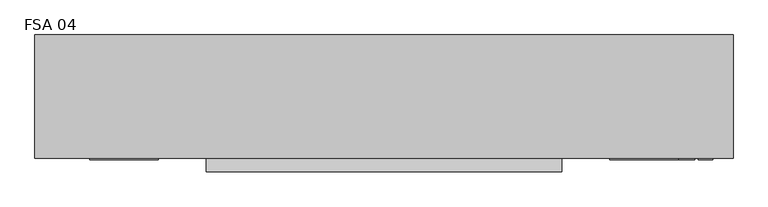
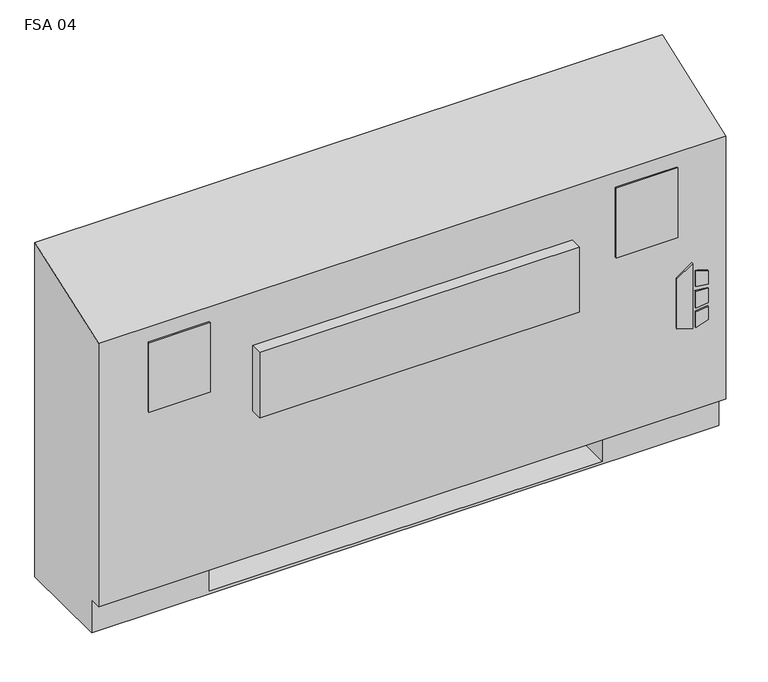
"""IFC4 building model written with IfcOpenShell, lengths in millimetres: proxy geometry, Vertical_Fan_Coil_Unit_-_FSA_-_IEC_-_4-Pipe_FS-FR_LH_2022 : FSA 04."""

from ifc_helpers import new_model, si_unit, point, frame, frame_2d, origin, place, context, project, spatial, polyline, circle_curve, trimmed, segment, composite_curve, outline, extrude, source, transform, mapped, element, save
from ifc_brep_helpers import plane_surface, revolved_surface, advanced_brep


def fsa_04_1a2f1526(model_context):
    return source(origin(), model_context, "Body", "SolidModel", [
        extrude(outline(polyline([(263.9480703, 696.9868862), (254.0, 729.1602728), (396.1709244, 729.1602728), (373.1489183, 696.9868862), (263.9480703, 696.9868862)])), frame((0.0, 12.7, 0.0), z_axis=(0.0, 1.0, 0.0), x_axis=(0.0, 0.0, 1.0)), (0.0, 0.0, 1.0), 3.175),
        extrude(outline(polyline([(342.9473557, 735.9186058), (339.7449632, 762.0), (368.9738042, 762.0), (377.0382193, 735.9186058), (342.9473557, 735.9186058)])), frame((0.0, 12.7, 0.0), z_axis=(0.0, 1.0, 0.0), x_axis=(0.0, 0.0, 1.0)), (0.0, 0.0, 1.0), 3.175),
        extrude(outline(polyline([(291.0838288, 762.0), (287.4183279, 735.9186058), (254.0, 735.9186058), (262.6342372, 762.0), (291.0838288, 762.0)])), frame((0.0, 12.7, 0.0), z_axis=(0.0, 1.0, 0.0), x_axis=(0.0, 0.0, 1.0)), (0.0, 0.0, 1.0), 3.175),
        extrude(outline(polyline([(330.3989903, 762.0), (332.6808166, 735.9186058), (296.7432681, 735.9186058), (299.4845331, 762.0), (330.3989903, 762.0)])), frame((0.0, 12.7, 0.0), z_axis=(0.0, 1.0, 0.0), x_axis=(0.0, 0.0, 1.0)), (0.0, 0.0, 1.0), 3.175),
        extrude(outline(polyline([(679.45, 223.266), (679.45, 81.534), (558.8, 81.534), (558.8, 223.266), (679.45, 223.266)])), frame((0.0, 0.0, 327.025), z_axis=(0.0, 0.0, 1.0), x_axis=(1.0, 0.0, 0.0)), (0.0, 0.0, 1.0), 260.35),
        extrude(outline(polyline([(-266.7, 12.7), (-393.7, 12.7), (-393.7, 15.875), (-266.7, 15.875), (-266.7, 12.7)])), frame((0.0, 0.0, 463.55), z_axis=(0.0, 0.0, 1.0), x_axis=(1.0, 0.0, 0.0)), (0.0, 0.0, 1.0), 152.4),
        extrude(outline(polyline([(698.5, 12.7), (571.5, 12.7), (571.5, 15.875), (698.5, 15.875), (698.5, 12.7)])), frame((0.0, 0.0, 463.55), z_axis=(0.0, 0.0, 1.0), x_axis=(1.0, 0.0, 0.0)), (0.0, 0.0, 1.0), 152.4),
        extrude(outline(composite_curve([segment(trimmed(circle_curve(frame_2d((-317.5, 130.175)), 9.525), [point((-327.025, 130.175))], [point((-307.975, 130.175))], False, "CARTESIAN"), True, "CONTINUOUS"), segment(trimmed(circle_curve(frame_2d((-317.5, 130.175)), 9.525), [point((-307.975, 130.175))], [point((-327.025, 130.175))], False, "CARTESIAN"), True, "CONTINUOUS")], self_intersect=False)), frame((0.0, 0.0, 101.6), z_axis=(0.0, 0.0, 1.0), x_axis=(1.0, 0.0, 0.0)), (0.0, 0.0, 1.0), 25.4),
        extrude(outline(polyline([(-419.1, 63.5), (-419.1, 196.85), (-254.0, 196.85), (-254.0, 63.5), (-419.1, 63.5)])), frame((0.0, 0.0, 127.0), z_axis=(0.0, 0.0, 1.0), x_axis=(1.0, 0.0, 0.0)), (0.0, 0.0, 1.0), 50.8),
        extrude(outline(polyline([(482.6, -9.525), (-177.8, -9.525), (-177.8, 15.875), (482.6, 15.875), (482.6, -9.525)])), frame((0.0, 0.0, 389.3009245), z_axis=(0.0, 0.0, 1.0), x_axis=(1.0, 0.0, 0.0)), (0.0, 0.0, 1.0), 142.875),
        extrude(outline(composite_curve([segment(trimmed(circle_curve(frame_2d((117.475, 472.44)), 7.9375), [point((117.475, 480.3775))], [point((117.475, 464.5025))], False, "CARTESIAN"), True, "CONTINUOUS"), segment(trimmed(circle_curve(frame_2d((117.475, 472.44)), 7.9375), [point((117.475, 464.5025))], [point((117.475, 480.3775))], False, "CARTESIAN"), True, "CONTINUOUS")], self_intersect=False)), frame((-304.8, 0.0, 0.0), z_axis=(1.0, 0.0, 0.0), x_axis=(0.0, 1.0, 0.0)), (0.0, 0.0, 1.0), 50.8),
        extrude(outline(composite_curve([segment(trimmed(circle_curve(frame_2d((164.0586, 445.897)), 7.9375), [point((164.0586, 453.8345))], [point((164.0586, 437.9595))], False, "CARTESIAN"), True, "CONTINUOUS"), segment(trimmed(circle_curve(frame_2d((164.0586, 445.897)), 7.9375), [point((164.0586, 437.9595))], [point((164.0586, 453.8345))], False, "CARTESIAN"), True, "CONTINUOUS")], self_intersect=False)), frame((-304.8, 0.0, 0.0), z_axis=(1.0, 0.0, 0.0), x_axis=(0.0, 1.0, 0.0)), (0.0, 0.0, 1.0), 50.8),
        extrude(outline(composite_curve([segment(trimmed(circle_curve(frame_2d((53.975, 416.56)), 7.9502), [point((53.975, 424.5102))], [point((53.975, 408.6098))], False, "CARTESIAN"), True, "CONTINUOUS"), segment(trimmed(circle_curve(frame_2d((53.975, 416.56)), 7.9502), [point((53.975, 408.6098))], [point((53.975, 424.5102))], False, "CARTESIAN"), True, "CONTINUOUS")], self_intersect=False)), frame((-304.8, 0.0, 0.0), z_axis=(1.0, 0.0, 0.0), x_axis=(0.0, 1.0, 0.0)), (0.0, 0.0, 1.0), 50.8),
        extrude(outline(composite_curve([segment(trimmed(circle_curve(frame_2d((130.175, 554.99)), 7.9502), [point((130.175, 562.9402))], [point((130.175, 547.0398))], False, "CARTESIAN"), True, "CONTINUOUS"), segment(trimmed(circle_curve(frame_2d((130.175, 554.99)), 7.9502), [point((130.175, 547.0398))], [point((130.175, 562.9402))], False, "CARTESIAN"), True, "CONTINUOUS")], self_intersect=False)), frame((-304.8, 0.0, 0.0), z_axis=(1.0, 0.0, 0.0), x_axis=(0.0, 1.0, 0.0)), (0.0, 0.0, 1.0), 50.8),
        advanced_brep(
        [(-495.3, 244.475, 0.0), (800.1, 244.475, 0.0), (800.1, 41.275, 0.0), (-495.3, 41.275, 0.0), (-495.3, 244.475, 730.25), (800.1, 244.475, 730.25), (558.8, 244.475, 73.025), (787.4, 244.475, 73.025), (787.4, 244.475, 654.05), (558.8, 244.475, 654.05), (558.8, 244.475, 414.8650565), (587.375, 244.475, 414.8650565), (587.375, 244.475, 385.2349435), (558.8, 244.475, 385.2349435), (558.8, 244.475, 287.3375), (587.375, 244.475, 287.3375), (587.375, 244.475, 258.7625), (558.8, 244.475, 258.7625), (558.8, 244.475, 141.2875), (587.375, 244.475, 141.2875), (587.375, 244.475, 112.7125), (558.8, 244.475, 112.7125), (-254.0, 244.475, 654.05), (-482.6, 244.475, 654.05), (-482.6, 244.475, 73.025), (-254.0, 244.475, 73.025), (-254.0, 244.475, 112.7125), (-282.575, 244.475, 112.7125), (-282.575, 244.475, 141.2875), (-254.0, 244.475, 141.2875), (-254.0, 244.475, 258.7625), (-282.575, 244.475, 258.7625), (-282.575, 244.475, 287.3375), (-254.0, 244.475, 287.3375), (-254.0, 244.475, 385.2349435), (-282.575, 244.475, 385.2349435), (-282.575, 244.475, 414.8650565), (-254.0, 244.475, 414.8650565), (577.0626, 244.475, 127.0), (565.9374, 244.475, 127.0), (577.0626, 244.475, 400.05), (565.9374, 244.475, 400.05), (577.0626, 244.475, 273.05), (565.9374, 244.475, 273.05), (-261.1374, 244.475, 127.0), (-272.2626, 244.475, 127.0), (-261.1374, 244.475, 273.05), (-272.2626, 244.475, 273.05), (-261.1374, 244.475, 400.05), (-272.2626, 244.475, 400.05), (-495.3, 41.275, 73.025), (-495.3, 15.875, 73.025), (-495.3, 15.875, 647.7), (800.1, 15.875, 73.025), (800.1, 15.875, 647.7), (800.1, 41.275, 73.025), (-254.0, 41.275, 73.025), (-254.0, 225.425, 73.025), (558.8, 225.425, 73.025), (558.8, 41.275, 73.025), (558.8, 41.275, 6.35), (-254.0, 41.275, 6.35), (558.8, 41.275, 654.05), (787.4, 41.275, 654.05), (787.4, 41.275, 73.025), (558.8, 41.275, 73.025), (-254.0, 41.275, 654.05), (-254.0, 41.275, 73.025), (-482.6, 41.275, 73.025), (-482.6, 41.275, 654.05), (558.8, 225.425, 73.025), (558.8, 238.125, 112.7125), (558.8, 238.125, 141.2875), (558.8, 238.125, 258.7625), (558.8, 238.125, 287.3375), (558.8, 238.125, 385.2349435), (558.8, 238.125, 414.8650565), (-254.0, 225.425, 73.025), (-254.0, 238.125, 414.8650565), (-254.0, 238.125, 385.2349435), (-254.0, 238.125, 287.3375), (-254.0, 238.125, 258.7625), (-254.0, 238.125, 141.2875), (-254.0, 238.125, 112.7125), (-254.0, 225.425, 6.35), (558.8, 225.425, 6.35), (587.375, 238.125, 112.7125), (587.375, 238.125, 141.2875), (565.9374, 238.125, 127.0), (577.0626, 238.125, 127.0), (587.375, 238.125, 258.7625), (587.375, 238.125, 287.3375), (565.9374, 238.125, 273.05), (577.0626, 238.125, 273.05), (587.375, 238.125, 385.2349435), (587.375, 238.125, 414.8650565), (565.9374, 238.125, 400.05), (577.0626, 238.125, 400.05), (-282.575, 238.125, 141.2875), (-282.575, 238.125, 112.7125), (-272.2626, 238.125, 127.0), (-261.1374, 238.125, 127.0), (-282.575, 238.125, 287.3375), (-282.575, 238.125, 258.7625), (-272.2626, 238.125, 273.05), (-261.1374, 238.125, 273.05), (-282.575, 238.125, 414.8650565), (-282.575, 238.125, 385.2349435), (-272.2626, 238.125, 400.05), (-261.1374, 238.125, 400.05)],
        [
            (0, 1),
            (1, 2),
            (2, 3),
            (3, 0),
            (0, 4),
            (4, 5),
            (5, 1),
            (6, 7),
            (7, 8),
            (8, 9),
            (9, 10),
            (10, 11),
            (11, 12),
            (12, 13),
            (13, 14),
            (14, 15),
            (15, 16),
            (16, 17),
            (17, 18),
            (18, 19),
            (19, 20),
            (20, 21),
            (21, 6),
            (22, 23),
            (23, 24),
            (24, 25),
            (25, 26),
            (26, 27),
            (27, 28),
            (28, 29),
            (29, 30),
            (30, 31),
            (31, 32),
            (32, 33),
            (33, 34),
            (34, 35),
            (35, 36),
            (36, 37),
            (37, 22),
            (38, 39, circle_curve(frame((571.5, 244.475, 127.0), z_axis=(0.0, -1.0, 0.0), x_axis=(-1.0, 0.0, 0.0)), 5.5626)),
            (39, 38, circle_curve(frame((571.5, 244.475, 127.0), z_axis=(0.0, -1.0, 0.0), x_axis=(-1.0, 0.0, 0.0)), 5.5626)),
            (40, 41, circle_curve(frame((571.5, 244.475, 400.05), z_axis=(0.0, -1.0, 0.0), x_axis=(-1.0, 0.0, 0.0)), 5.5626)),
            (41, 40, circle_curve(frame((571.5, 244.475, 400.05), z_axis=(0.0, -1.0, 0.0), x_axis=(-1.0, 0.0, 0.0)), 5.5626)),
            (42, 43, circle_curve(frame((571.5, 244.475, 273.05), z_axis=(0.0, -1.0, 0.0), x_axis=(-1.0, 0.0, 0.0)), 5.5626)),
            (43, 42, circle_curve(frame((571.5, 244.475, 273.05), z_axis=(0.0, -1.0, 0.0), x_axis=(-1.0, 0.0, 0.0)), 5.5626)),
            (44, 45, circle_curve(frame((-266.7, 244.475, 127.0), z_axis=(0.0, -1.0, 0.0), x_axis=(-1.0, 0.0, 0.0)), 5.5626)),
            (45, 44, circle_curve(frame((-266.7, 244.475, 127.0), z_axis=(0.0, -1.0, 0.0), x_axis=(-1.0, 0.0, 0.0)), 5.5626)),
            (46, 47, circle_curve(frame((-266.7, 244.475, 273.05), z_axis=(0.0, -1.0, 0.0), x_axis=(-1.0, 0.0, 0.0)), 5.5626)),
            (47, 46, circle_curve(frame((-266.7, 244.475, 273.05), z_axis=(0.0, -1.0, 0.0), x_axis=(-1.0, 0.0, 0.0)), 5.5626)),
            (48, 49, circle_curve(frame((-266.7, 244.475, 400.05), z_axis=(0.0, -1.0, 0.0), x_axis=(-1.0, 0.0, 0.0)), 5.5626)),
            (49, 48, circle_curve(frame((-266.7, 244.475, 400.05), z_axis=(0.0, -1.0, 0.0), x_axis=(-1.0, 0.0, 0.0)), 5.5626)),
            (3, 50),
            (50, 51),
            (51, 52),
            (52, 4),
            (51, 53),
            (53, 54),
            (54, 52),
            (5, 54),
            (53, 55),
            (55, 2),
            (50, 56),
            (56, 57),
            (57, 58),
            (58, 59),
            (59, 55),
            (59, 60),
            (60, 61),
            (61, 56),
            (62, 63),
            (63, 64),
            (64, 65),
            (65, 62),
            (66, 67),
            (67, 68),
            (68, 69),
            (69, 66),
            (65, 70),
            (70, 6),
            (21, 71),
            (71, 72),
            (72, 18),
            (17, 73),
            (73, 74),
            (74, 14),
            (13, 75),
            (75, 76),
            (76, 10),
            (9, 62),
            (64, 7),
            (63, 8),
            (69, 23),
            (22, 66),
            (68, 24),
            (67, 77),
            (77, 25),
            (37, 78),
            (78, 79),
            (79, 34),
            (33, 80),
            (80, 81),
            (81, 30),
            (29, 82),
            (82, 83),
            (83, 26),
            (57, 84),
            (84, 85),
            (85, 58),
            (85, 60),
            (84, 61),
            (71, 86),
            (86, 87),
            (87, 72),
            (88, 89, circle_curve(frame((571.5, 238.125, 127.0), z_axis=(0.0, 1.0, 0.0), x_axis=(-1.0, 0.0, 0.0)), 5.5626)),
            (89, 88, circle_curve(frame((571.5, 238.125, 127.0), z_axis=(0.0, 1.0, 0.0), x_axis=(-1.0, 0.0, 0.0)), 5.5626)),
            (73, 90),
            (90, 91),
            (91, 74),
            (92, 93, circle_curve(frame((571.5, 238.125, 273.05), z_axis=(0.0, 1.0, 0.0), x_axis=(-1.0, 0.0, 0.0)), 5.5626)),
            (93, 92, circle_curve(frame((571.5, 238.125, 273.05), z_axis=(0.0, 1.0, 0.0), x_axis=(-1.0, 0.0, 0.0)), 5.5626)),
            (75, 94),
            (94, 95),
            (95, 76),
            (96, 97, circle_curve(frame((571.5, 238.125, 400.05), z_axis=(0.0, 1.0, 0.0), x_axis=(-1.0, 0.0, 0.0)), 5.5626)),
            (97, 96, circle_curve(frame((571.5, 238.125, 400.05), z_axis=(0.0, 1.0, 0.0), x_axis=(-1.0, 0.0, 0.0)), 5.5626)),
            (98, 99),
            (99, 83),
            (82, 98),
            (100, 101, circle_curve(frame((-266.7, 238.125, 127.0), z_axis=(0.0, 1.0, 0.0), x_axis=(-1.0, 0.0, 0.0)), 5.5626)),
            (101, 100, circle_curve(frame((-266.7, 238.125, 127.0), z_axis=(0.0, 1.0, 0.0), x_axis=(-1.0, 0.0, 0.0)), 5.5626)),
            (102, 103),
            (103, 81),
            (80, 102),
            (104, 105, circle_curve(frame((-266.7, 238.125, 273.05), z_axis=(0.0, 1.0, 0.0), x_axis=(-1.0, 0.0, 0.0)), 5.5626)),
            (105, 104, circle_curve(frame((-266.7, 238.125, 273.05), z_axis=(0.0, 1.0, 0.0), x_axis=(-1.0, 0.0, 0.0)), 5.5626)),
            (106, 107),
            (107, 79),
            (78, 106),
            (108, 109, circle_curve(frame((-266.7, 238.125, 400.05), z_axis=(0.0, 1.0, 0.0), x_axis=(-1.0, 0.0, 0.0)), 5.5626)),
            (109, 108, circle_curve(frame((-266.7, 238.125, 400.05), z_axis=(0.0, 1.0, 0.0), x_axis=(-1.0, 0.0, 0.0)), 5.5626)),
            (87, 19),
            (86, 20),
            (91, 15),
            (90, 16),
            (95, 11),
            (94, 12),
            (28, 98),
            (99, 27),
            (32, 102),
            (103, 31),
            (36, 106),
            (107, 35),
            (88, 39),
            (38, 89),
            (96, 41),
            (40, 97),
            (92, 43),
            (42, 93),
            (100, 45),
            (44, 101),
            (104, 47),
            (46, 105),
            (108, 49),
            (48, 109),
        ],
        [
            plane_surface(frame((-495.3, 244.475, 0.0), z_axis=(0.0, 0.0, -1.0), x_axis=(1.0, 0.0, 0.0))),
            plane_surface(frame((800.1, 244.475, 730.25), z_axis=(0.0, 1.0, 0.0), x_axis=(0.0, 0.0, -1.0))),
            plane_surface(frame((-495.3, 244.475, 730.25), z_axis=(-1.0, 0.0, 0.0), x_axis=(0.0, 0.0, -1.0))),
            plane_surface(frame((-495.3, 15.875, 730.25), z_axis=(0.0, -1.0, 0.0), x_axis=(0.0, 0.0, -1.0))),
            plane_surface(frame((800.1, 15.875, 730.25), z_axis=(1.0, 0.0, 0.0), x_axis=(0.0, 0.0, -1.0))),
            plane_surface(frame((-495.3, 15.875, 73.025), z_axis=(0.0, 0.0, -1.0), x_axis=(1.0, 0.0, 0.0))),
            plane_surface(frame((-495.3, 41.275, 73.025), z_axis=(0.0, -1.0, 0.0), x_axis=(1.0, 0.0, 0.0))),
            plane_surface(frame((558.8, 41.275, 654.05), z_axis=(0.0, 1.0, 0.0), x_axis=(0.0, 0.0, -1.0))),
            plane_surface(frame((558.8, 41.275, 654.05), z_axis=(1.0, 0.0, 0.0), x_axis=(0.0, 1.0, 0.0))),
            plane_surface(frame((558.8, 41.275, 73.025), z_axis=(0.0, 0.0, 1.0), x_axis=(0.0, 1.0, 0.0))),
            plane_surface(frame((787.4, 41.275, 73.025), z_axis=(-1.0, 0.0, 0.0), x_axis=(0.0, 1.0, 0.0))),
            plane_surface(frame((787.4, 41.275, 654.05), z_axis=(0.0, 0.0, -1.0), x_axis=(0.0, 1.0, 0.0))),
            plane_surface(frame((-254.0, 41.275, 654.05), z_axis=(0.0, 0.0, -1.0), x_axis=(0.0, 1.0, 0.0))),
            plane_surface(frame((-482.6, 41.275, 654.05), z_axis=(1.0, 0.0, 0.0), x_axis=(0.0, 1.0, 0.0))),
            plane_surface(frame((-482.6, 41.275, 73.025), z_axis=(0.0, 0.0, 1.0), x_axis=(0.0, 1.0, 0.0))),
            plane_surface(frame((-254.0, 41.275, 73.025), z_axis=(-1.0, 0.0, 0.0), x_axis=(0.0, 1.0, 0.0))),
            plane_surface(frame((558.8, 225.425, 73.025), z_axis=(0.0, -1.0, 0.0), x_axis=(0.0, 0.0, -1.0))),
            plane_surface(frame((558.8, 225.425, 73.025), z_axis=(-1.0, 0.0, 0.0), x_axis=(0.0, -1.0, 0.0))),
            plane_surface(frame((558.8, 225.425, 6.35), z_axis=(0.0, 0.0, 1.0), x_axis=(0.0, -1.0, 0.0))),
            plane_surface(frame((-254.0, 225.425, 6.35), z_axis=(1.0, 0.0, 0.0), x_axis=(0.0, -1.0, 0.0))),
            plane_surface(frame((587.375, 238.125, 141.2875), z_axis=(0.0, -1.0, 0.0), x_axis=(-1.0, 0.0, 0.0))),
            plane_surface(frame((558.8, 244.475, 141.2875), z_axis=(0.0, 0.0, 1.0), x_axis=(0.0, -1.0, 0.0))),
            plane_surface(frame((587.375, 244.475, 141.2875), z_axis=(1.0, 0.0, 0.0), x_axis=(0.0, -1.0, 0.0))),
            plane_surface(frame((587.375, 244.475, 112.7125), z_axis=(0.0, 0.0, -1.0), x_axis=(0.0, -1.0, 0.0))),
            plane_surface(frame((558.8, 244.475, 287.3375), z_axis=(0.0, 0.0, 1.0), x_axis=(0.0, -1.0, 0.0))),
            plane_surface(frame((587.375, 244.475, 287.3375), z_axis=(1.0, 0.0, 0.0), x_axis=(0.0, -1.0, 0.0))),
            plane_surface(frame((587.375, 244.475, 258.7625), z_axis=(0.0, 0.0, -1.0), x_axis=(0.0, -1.0, 0.0))),
            plane_surface(frame((558.8, 244.475, 414.8650565), z_axis=(0.0, 0.0, 1.0), x_axis=(0.0, -1.0, 0.0))),
            plane_surface(frame((587.375, 244.475, 414.8650565), z_axis=(1.0, 0.0, 0.0), x_axis=(0.0, -1.0, 0.0))),
            plane_surface(frame((587.375, 244.475, 385.2349435), z_axis=(0.0, 0.0, -1.0), x_axis=(0.0, -1.0, 0.0))),
            plane_surface(frame((-282.575, 244.475, 141.2875), z_axis=(0.0, 0.0, 1.0), x_axis=(0.0, -1.0, 0.0))),
            plane_surface(frame((-254.0, 244.475, 112.7125), z_axis=(0.0, 0.0, -1.0), x_axis=(0.0, -1.0, 0.0))),
            plane_surface(frame((-282.575, 244.475, 112.7125), z_axis=(-1.0, 0.0, 0.0), x_axis=(0.0, -1.0, 0.0))),
            plane_surface(frame((-282.575, 244.475, 287.3375), z_axis=(0.0, 0.0, 1.0), x_axis=(0.0, -1.0, 0.0))),
            plane_surface(frame((-254.0, 244.475, 258.7625), z_axis=(0.0, 0.0, -1.0), x_axis=(0.0, -1.0, 0.0))),
            plane_surface(frame((-282.575, 244.475, 258.7625), z_axis=(-1.0, 0.0, 0.0), x_axis=(0.0, -1.0, 0.0))),
            plane_surface(frame((-282.575, 244.475, 414.8650565), z_axis=(0.0, 0.0, 1.0), x_axis=(0.0, -1.0, 0.0))),
            plane_surface(frame((-254.0, 244.475, 385.2349435), z_axis=(0.0, 0.0, -1.0), x_axis=(0.0, -1.0, 0.0))),
            plane_surface(frame((-282.575, 244.475, 385.2349435), z_axis=(-1.0, 0.0, 0.0), x_axis=(0.0, -1.0, 0.0))),
            revolved_surface(polyline([(565.9374, 238.125, 127.0), (565.9374, 244.475, 127.0)]), (571.5, 244.475, 127.0), (0.0, -1.0, 0.0)),
            revolved_surface(polyline([(565.9374, 238.125, 400.05), (565.9374, 244.475, 400.05)]), (571.5, 244.475, 400.05), (0.0, -1.0, 0.0)),
            revolved_surface(polyline([(565.9374, 238.125, 273.05), (565.9374, 244.475, 273.05)]), (571.5, 244.475, 273.05), (0.0, -1.0, 0.0)),
            revolved_surface(polyline([(-272.26259999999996, 238.125, 127.0), (-272.26259999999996, 244.475, 127.0)]), (-266.7, 244.475, 127.0), (0.0, -1.0, 0.0)),
            revolved_surface(polyline([(-272.26259999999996, 238.125, 273.05), (-272.26259999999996, 244.475, 273.05)]), (-266.7, 244.475, 273.05), (0.0, -1.0, 0.0)),
            revolved_surface(polyline([(-272.26259999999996, 238.125, 400.05), (-272.26259999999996, 244.475, 400.05)]), (-266.7, 244.475, 400.05), (0.0, -1.0, 0.0)),
            plane_surface(frame((-495.3, 244.475, 730.25), z_axis=(0.0, -0.33964446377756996, 0.9405538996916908), x_axis=(1.0, 0.0, 0.0))),
        ],
        [
            (0, [[1, 2, 3, 4]]),
            (1, [[-1, 5, 6, 7], [8, 9, 10, 11, 12, 13, 14, 15, 16, 17, 18, 19, 20, 21, 22, 23], [24, 25, 26, 27, 28, 29, 30, 31, 32, 33, 34, 35, 36, 37, 38, 39], [40, 41], [42, 43], [44, 45], [46, 47], [48, 49], [50, 51]]),
            (2, [[-5, -4, 52, 53, 54, 55]]),
            (3, [[56, 57, 58, -54]]),
            (4, [[-7, 59, -57, 60, 61, -2]]),
            (5, [[-53, 62, 63, 64, 65, 66, -60, -56]]),
            (6, [[-3, -61, -66, 67, 68, 69, -62, -52]]),
            (7, [[70, 71, 72, 73]]),
            (7, [[74, 75, 76, 77]]),
            (8, [[-73, 78, 79, -23, 80, 81, 82, -19, 83, 84, 85, -15, 86, 87, 88, -11, 89]]),
            (9, [[-72, 90, -8, -79, -78]]),
            (10, [[-71, 91, -9, -90]]),
            (11, [[-70, -89, -10, -91]]),
            (12, [[-77, 92, -24, 93]]),
            (13, [[-76, 94, -25, -92]]),
            (14, [[-75, 95, 96, -26, -94]]),
            (15, [[-74, -93, -39, 97, 98, 99, -35, 100, 101, 102, -31, 103, 104, 105, -27, -96, -95]]),
            (16, [[-64, 106, 107, 108]]),
            (17, [[-108, 109, -67, -65]]),
            (18, [[-107, 110, -68, -109]]),
            (19, [[-106, -63, -69, -110]]),
            (20, [[111, 112, 113, -81], [114, 115]]),
            (20, [[116, 117, 118, -84], [119, 120]]),
            (20, [[121, 122, 123, -87], [124, 125]]),
            (20, [[126, 127, -104, 128], [129, 130]]),
            (20, [[131, 132, -101, 133], [134, 135]]),
            (20, [[136, 137, -98, 138], [139, 140]]),
            (21, [[-113, 141, -20, -82]]),
            (22, [[-112, 142, -21, -141]]),
            (23, [[-111, -80, -22, -142]]),
            (24, [[-118, 143, -16, -85]]),
            (25, [[-117, 144, -17, -143]]),
            (26, [[-116, -83, -18, -144]]),
            (27, [[-123, 145, -12, -88]]),
            (28, [[-122, 146, -13, -145]]),
            (29, [[-121, -86, -14, -146]]),
            (30, [[-128, -103, -30, 147]]),
            (31, [[-127, 148, -28, -105]]),
            (32, [[-126, -147, -29, -148]]),
            (33, [[-133, -100, -34, 149]]),
            (34, [[-132, 150, -32, -102]]),
            (35, [[-131, -149, -33, -150]]),
            (36, [[-138, -97, -38, 151]]),
            (37, [[-137, 152, -36, -99]]),
            (38, [[-136, -151, -37, -152]]),
            (39, [[153, -40, 154, -114]]),
            (39, [[-153, -115, -154, -41]]),
            (40, [[155, -42, 156, -124]]),
            (40, [[-155, -125, -156, -43]]),
            (41, [[157, -44, 158, -119]]),
            (41, [[-157, -120, -158, -45]]),
            (42, [[159, -46, 160, -129]]),
            (42, [[-159, -130, -160, -47]]),
            (43, [[161, -48, 162, -134]]),
            (43, [[-161, -135, -162, -49]]),
            (44, [[163, -50, 164, -139]]),
            (44, [[-163, -140, -164, -51]]),
            (45, [[-6, -55, -58, -59]]),
        ],
    ),
    ])


if __name__ == "__main__":
    model = new_model("IFC4")
    model_context = context("Model", 3, world=origin())
    ifc_project = project(units=[si_unit("LENGTHUNIT", "METRE", prefix="MILLI")], contexts=[model_context])
    site = spatial("IfcSite", under=ifc_project)
    building = spatial("IfcBuilding", under=site)
    placement = place(None, origin())
    fsa_04_shape = fsa_04_1a2f1526(model_context)
    element("IfcBuildingElementProxy", 1, Name="Vertical_Fan_Coil_Unit_-_FSA_-_IEC_-_4-Pipe_FS-FR_LH_2022 : FSA 04", ObjectType="Vertical_Fan_Coil_Unit_-_FSA_-_IEC_-_4-Pipe_FS-FR_LH_2022 : FSA 04", at=placement, inside=building, context=model_context, shape_type="MappedRepresentation", body=[
        mapped(fsa_04_shape, transform((0.0, 0.0, 0.0), x_axis=(1.0, 0.0, 0.0), y_axis=(0.0, 1.0, 0.0), z_axis=(0.0, 0.0, 1.0))),
    ])
    save(model, "model.ifc")
